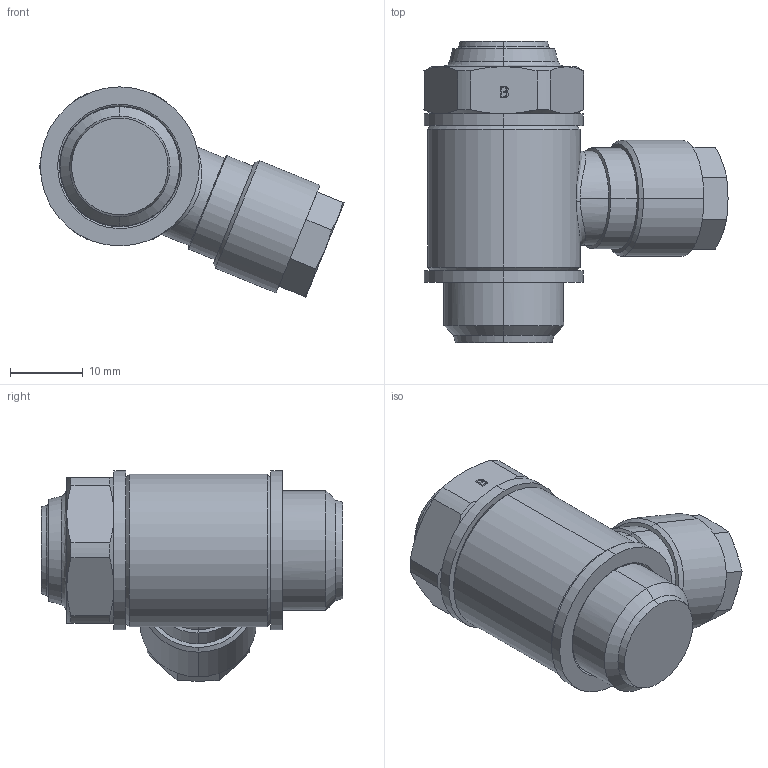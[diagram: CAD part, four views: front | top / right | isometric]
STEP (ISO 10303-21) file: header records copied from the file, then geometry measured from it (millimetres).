
FILE_DESCRIPTION (( 'STEP AP203' ), '1' );
FILE_NAME ('249879.STEP', '2016-08-10T08:49:25', ( '' ), ( '' ), 'SwSTEP 2.0', 'SolidWorks 2016', '' );
FILE_SCHEMA (( 'CONFIG_CONTROL_DESIGN' ));
Length unit declared in the file: millimetre
Products named in the file (1): 249879
Bounding box: 41.88 x 41.5 x 28.95 mm (x, y, z)
Volume: 16099.3 mm3; surface area: 4625.2 mm2
Topology: 1 solids, 1 shells, 138 faces, 349 edges, 220 vertices
Faces by surface type: plane 50, cone 36, cylinder 34, bspline 18
Entity records: 6158 total; most frequent: CARTESIAN_POINT 2842, ORIENTED_EDGE 698, DIRECTION 651, EDGE_CURVE 349, AXIS2_PLACEMENT_3D 265, VERTEX_POINT 220, EDGE_LOOP 157, CIRCLE 144
